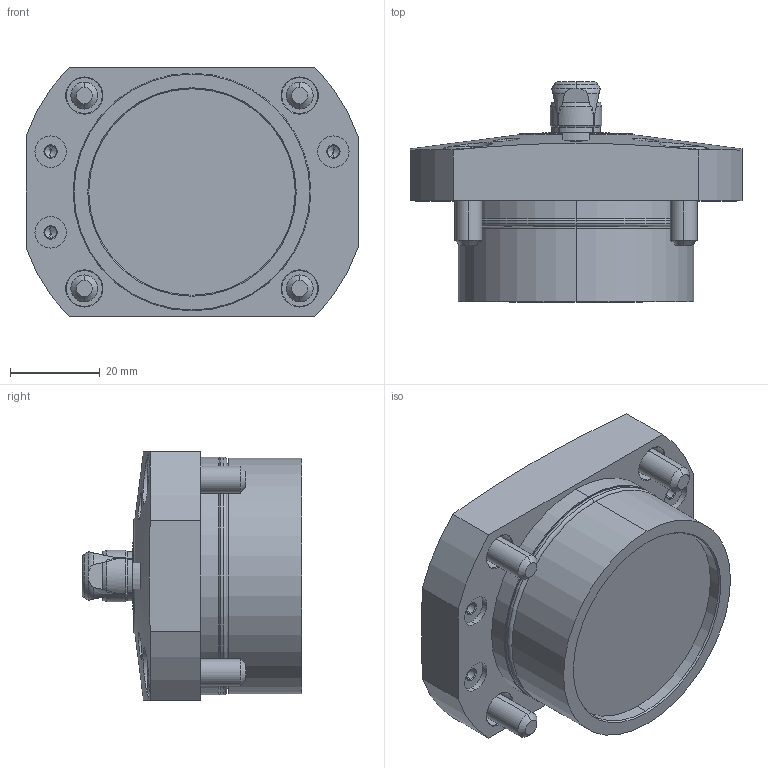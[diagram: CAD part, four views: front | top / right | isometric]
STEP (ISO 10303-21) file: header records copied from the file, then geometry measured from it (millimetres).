
FILE_DESCRIPTION (( 'STEP AP203' ), '1' );
FILE_NAME ('SFH3120.STEP', '2010-11-03T23:20:50', ( ' ' ), ( ' ' ), 'SwSTEP 2.0', 'SolidWorks 2010', '' );
FILE_SCHEMA (( 'CONFIG_CONTROL_DESIGN' ));
Length unit declared in the file: millimetre
Products named in the file (7): SFH3120_套菁轤礁诎蔬晅; 6妏寠晅无倌_M6_16; SFH3120; SFH3_钾堇轤O剌皋晅; φ12_ｽﾘｰﾌﾞ; 冇12_郫霓; 6妏寠晅无倌_M3_10
Assembly tree (14 placements, depth 2):
  SFH3120
    6妏寠晅无倌_M6_16  x4
    6妏寠晅无倌_M3_10  x6
    φ12_ｽﾘｰﾌﾞ
    冇12_郫霓
    SFH3_钾堇轤O剌皋晅
    SFH3120_套菁轤礁诎蔬晅
Bounding box: 74 x 49 x 55.5 mm (x, y, z)
Volume: 94791.3 mm3; surface area: 29427.1 mm2
Topology: 18 solids, 18 shells, 564 faces, 1147 edges, 630 vertices
Faces by surface type: plane 227, cone 180, cylinder 138, torus 19
Entity records: 10584 total; most frequent: CARTESIAN_POINT 2555, DIRECTION 1570, ORIENTED_EDGE 1406, EDGE_CURVE 703, AXIS2_PLACEMENT_3D 652, VERTEX_POINT 430, EDGE_LOOP 361, CIRCLE 319
